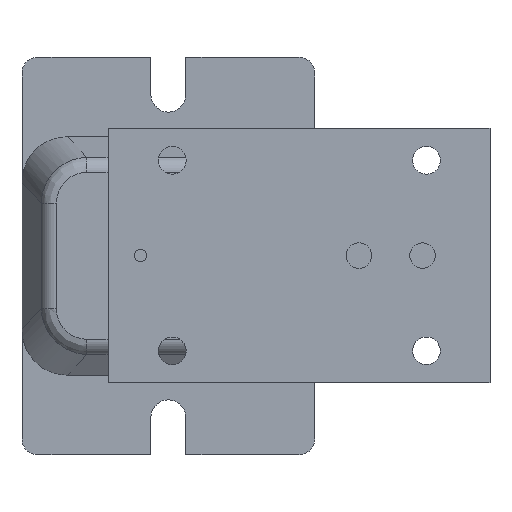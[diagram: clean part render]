
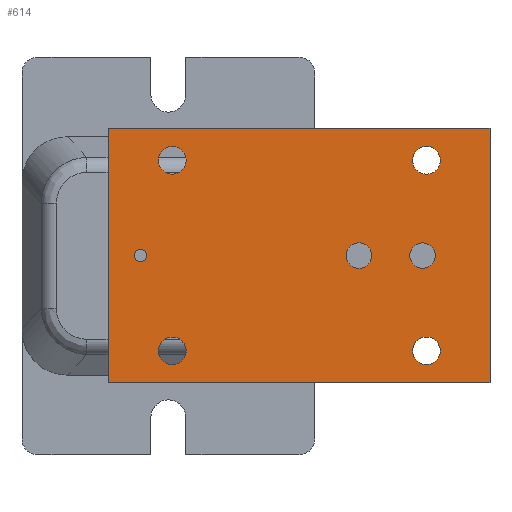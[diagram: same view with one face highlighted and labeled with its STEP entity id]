
A CAD part, top view. The second image highlights one B-rep face of the part: STEP entity #614.
In plain terms, the highlighted planar face has unit normal (0, 0, 1).
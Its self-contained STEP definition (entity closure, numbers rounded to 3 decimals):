
#114=DIRECTION('',(0.,-1.,0.));
#115=VECTOR('',#114,101.6);
#116=CARTESIAN_POINT('',(-76.2,50.8,6.35));
#117=LINE('',#116,#115);
#118=DIRECTION('',(-1.,0.,0.));
#119=VECTOR('',#118,152.4);
#120=CARTESIAN_POINT('',(76.2,50.8,6.35));
#121=LINE('',#120,#119);
#122=DIRECTION('',(0.,1.,0.));
#123=VECTOR('',#122,101.6);
#124=CARTESIAN_POINT('',(76.2,-50.8,6.35));
#125=LINE('',#124,#123);
#126=DIRECTION('',(1.,0.,0.));
#127=VECTOR('',#126,152.4);
#128=CARTESIAN_POINT('',(-76.2,-50.8,6.35));
#129=LINE('',#128,#127);
#130=CARTESIAN_POINT('',(-50.8,38.1,6.35));
#131=DIRECTION('',(0.,0.,1.));
#132=DIRECTION('',(1.,0.,0.));
#133=AXIS2_PLACEMENT_3D('',#130,#131,#132);
#135=CARTESIAN_POINT('',(-50.8,38.1,6.35));
#136=DIRECTION('',(0.,0.,1.));
#137=DIRECTION('',(-1.,0.,0.));
#138=AXIS2_PLACEMENT_3D('',#135,#136,#137);
#140=CARTESIAN_POINT('',(50.8,38.1,6.35));
#141=DIRECTION('',(0.,0.,1.));
#142=DIRECTION('',(1.,0.,0.));
#143=AXIS2_PLACEMENT_3D('',#140,#141,#142);
#145=CARTESIAN_POINT('',(50.8,38.1,6.35));
#146=DIRECTION('',(0.,0.,1.));
#147=DIRECTION('',(-1.,0.,0.));
#148=AXIS2_PLACEMENT_3D('',#145,#146,#147);
#150=CARTESIAN_POINT('',(50.8,-38.1,6.35));
#151=DIRECTION('',(0.,0.,1.));
#152=DIRECTION('',(1.,0.,0.));
#153=AXIS2_PLACEMENT_3D('',#150,#151,#152);
#155=CARTESIAN_POINT('',(50.8,-38.1,6.35));
#156=DIRECTION('',(0.,0.,1.));
#157=DIRECTION('',(-1.,0.,0.));
#158=AXIS2_PLACEMENT_3D('',#155,#156,#157);
#160=CARTESIAN_POINT('',(-50.8,-38.1,6.35));
#161=DIRECTION('',(0.,0.,1.));
#162=DIRECTION('',(1.,0.,0.));
#163=AXIS2_PLACEMENT_3D('',#160,#161,#162);
#165=CARTESIAN_POINT('',(-50.8,-38.1,6.35));
#166=DIRECTION('',(0.,0.,1.));
#167=DIRECTION('',(-1.,0.,0.));
#168=AXIS2_PLACEMENT_3D('',#165,#166,#167);
#170=CARTESIAN_POINT('',(23.83,0.,6.35));
#171=DIRECTION('',(0.,0.,1.));
#172=DIRECTION('',(-1.,0.,0.));
#173=AXIS2_PLACEMENT_3D('',#170,#171,#172);
#175=CARTESIAN_POINT('',(23.83,0.,6.35));
#176=DIRECTION('',(0.,0.,1.));
#177=DIRECTION('',(1.,0.,0.));
#178=AXIS2_PLACEMENT_3D('',#175,#176,#177);
#180=CARTESIAN_POINT('',(49.23,0.,6.35));
#181=DIRECTION('',(0.,0.,1.));
#182=DIRECTION('',(-1.,0.,0.));
#183=AXIS2_PLACEMENT_3D('',#180,#181,#182);
#185=CARTESIAN_POINT('',(49.23,0.,6.35));
#186=DIRECTION('',(0.,0.,1.));
#187=DIRECTION('',(1.,0.,0.));
#188=AXIS2_PLACEMENT_3D('',#185,#186,#187);
#190=CARTESIAN_POINT('',(-63.5,0.,6.35));
#191=DIRECTION('',(0.,0.,1.));
#192=DIRECTION('',(-1.,0.,0.));
#193=AXIS2_PLACEMENT_3D('',#190,#191,#192);
#195=CARTESIAN_POINT('',(-63.5,0.,6.35));
#196=DIRECTION('',(0.,0.,1.));
#197=DIRECTION('',(1.,0.,0.));
#198=AXIS2_PLACEMENT_3D('',#195,#196,#197);
#363=CARTESIAN_POINT('',(-76.2,50.8,6.35));
#364=CARTESIAN_POINT('',(-76.2,-50.8,6.35));
#365=VERTEX_POINT('',#363);
#366=VERTEX_POINT('',#364);
#367=CARTESIAN_POINT('',(76.2,-50.8,6.35));
#368=VERTEX_POINT('',#367);
#369=CARTESIAN_POINT('',(76.2,50.8,6.35));
#370=VERTEX_POINT('',#369);
#387=CARTESIAN_POINT('',(-45.25,38.1,6.35));
#388=CARTESIAN_POINT('',(-56.35,38.1,6.35));
#389=VERTEX_POINT('',#387);
#390=VERTEX_POINT('',#388);
#391=CARTESIAN_POINT('',(56.35,38.1,6.35));
#392=CARTESIAN_POINT('',(45.25,38.1,6.35));
#393=VERTEX_POINT('',#391);
#394=VERTEX_POINT('',#392);
#395=CARTESIAN_POINT('',(56.35,-38.1,6.35));
#396=CARTESIAN_POINT('',(45.25,-38.1,6.35));
#397=VERTEX_POINT('',#395);
#398=VERTEX_POINT('',#396);
#399=CARTESIAN_POINT('',(-45.25,-38.1,6.35));
#400=CARTESIAN_POINT('',(-56.35,-38.1,6.35));
#401=VERTEX_POINT('',#399);
#402=VERTEX_POINT('',#400);
#407=CARTESIAN_POINT('',(18.73,0.,6.35));
#408=CARTESIAN_POINT('',(28.93,0.,6.35));
#409=VERTEX_POINT('',#407);
#410=VERTEX_POINT('',#408);
#415=CARTESIAN_POINT('',(44.13,0.,6.35));
#416=CARTESIAN_POINT('',(54.33,0.,6.35));
#417=VERTEX_POINT('',#415);
#418=VERTEX_POINT('',#416);
#423=CARTESIAN_POINT('',(-66.,0.,6.35));
#424=CARTESIAN_POINT('',(-61.,0.,6.35));
#425=VERTEX_POINT('',#423);
#426=VERTEX_POINT('',#424);
#561=CARTESIAN_POINT('',(0.,0.,6.35));
#562=DIRECTION('',(0.,0.,1.));
#563=DIRECTION('',(1.,0.,0.));
#564=AXIS2_PLACEMENT_3D('',#561,#562,#563);
#565=PLANE('',#564);
#566=ORIENTED_EDGE('',*,*,#507,.F.);
#567=ORIENTED_EDGE('',*,*,#528,.F.);
#568=ORIENTED_EDGE('',*,*,#542,.F.);
#569=ORIENTED_EDGE('',*,*,#555,.F.);
#570=EDGE_LOOP('',(#566,#567,#568,#569));
#571=FACE_OUTER_BOUND('',#570,.F.);
#573=ORIENTED_EDGE('',*,*,#572,.T.);
#575=ORIENTED_EDGE('',*,*,#574,.T.);
#576=EDGE_LOOP('',(#573,#575));
#577=FACE_BOUND('',#576,.F.);
#579=ORIENTED_EDGE('',*,*,#578,.T.);
#581=ORIENTED_EDGE('',*,*,#580,.T.);
#582=EDGE_LOOP('',(#579,#581));
#583=FACE_BOUND('',#582,.F.);
#585=ORIENTED_EDGE('',*,*,#584,.T.);
#587=ORIENTED_EDGE('',*,*,#586,.T.);
#588=EDGE_LOOP('',(#585,#587));
#589=FACE_BOUND('',#588,.F.);
#591=ORIENTED_EDGE('',*,*,#590,.T.);
#593=ORIENTED_EDGE('',*,*,#592,.T.);
#594=EDGE_LOOP('',(#591,#593));
#595=FACE_BOUND('',#594,.F.);
#597=ORIENTED_EDGE('',*,*,#596,.T.);
#599=ORIENTED_EDGE('',*,*,#598,.T.);
#600=EDGE_LOOP('',(#597,#599));
#601=FACE_BOUND('',#600,.F.);
#603=ORIENTED_EDGE('',*,*,#602,.T.);
#605=ORIENTED_EDGE('',*,*,#604,.T.);
#606=EDGE_LOOP('',(#603,#605));
#607=FACE_BOUND('',#606,.F.);
#609=ORIENTED_EDGE('',*,*,#608,.T.);
#611=ORIENTED_EDGE('',*,*,#610,.T.);
#612=EDGE_LOOP('',(#609,#611));
#613=FACE_BOUND('',#612,.F.);
#614=ADVANCED_FACE('',(#571,#577,#583,#589,#595,#601,#607,#613),#565,.T.);
#134=CIRCLE('',#133,5.55);
#139=CIRCLE('',#138,5.55);
#144=CIRCLE('',#143,5.55);
#149=CIRCLE('',#148,5.55);
#154=CIRCLE('',#153,5.55);
#159=CIRCLE('',#158,5.55);
#164=CIRCLE('',#163,5.55);
#169=CIRCLE('',#168,5.55);
#174=CIRCLE('',#173,5.1);
#179=CIRCLE('',#178,5.1);
#184=CIRCLE('',#183,5.1);
#189=CIRCLE('',#188,5.1);
#194=CIRCLE('',#193,2.5);
#199=CIRCLE('',#198,2.5);
#507=EDGE_CURVE('',#365,#366,#117,.T.);
#528=EDGE_CURVE('',#370,#365,#121,.T.);
#542=EDGE_CURVE('',#368,#370,#125,.T.);
#555=EDGE_CURVE('',#366,#368,#129,.T.);
#572=EDGE_CURVE('',#389,#390,#134,.T.);
#574=EDGE_CURVE('',#390,#389,#139,.T.);
#578=EDGE_CURVE('',#393,#394,#144,.T.);
#580=EDGE_CURVE('',#394,#393,#149,.T.);
#584=EDGE_CURVE('',#397,#398,#154,.T.);
#586=EDGE_CURVE('',#398,#397,#159,.T.);
#590=EDGE_CURVE('',#401,#402,#164,.T.);
#592=EDGE_CURVE('',#402,#401,#169,.T.);
#596=EDGE_CURVE('',#409,#410,#174,.T.);
#598=EDGE_CURVE('',#410,#409,#179,.T.);
#602=EDGE_CURVE('',#417,#418,#184,.T.);
#604=EDGE_CURVE('',#418,#417,#189,.T.);
#608=EDGE_CURVE('',#425,#426,#194,.T.);
#610=EDGE_CURVE('',#426,#425,#199,.T.);
